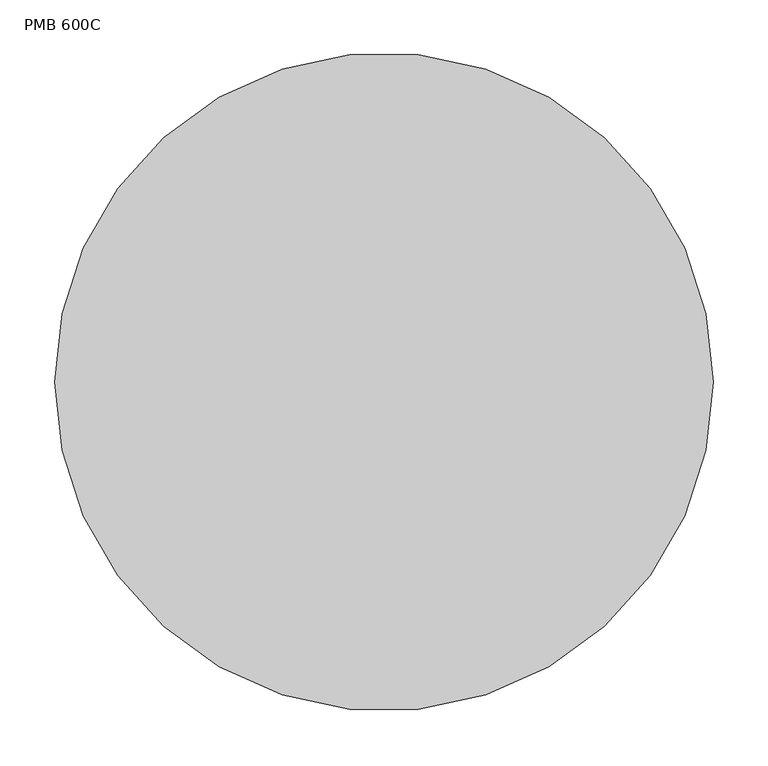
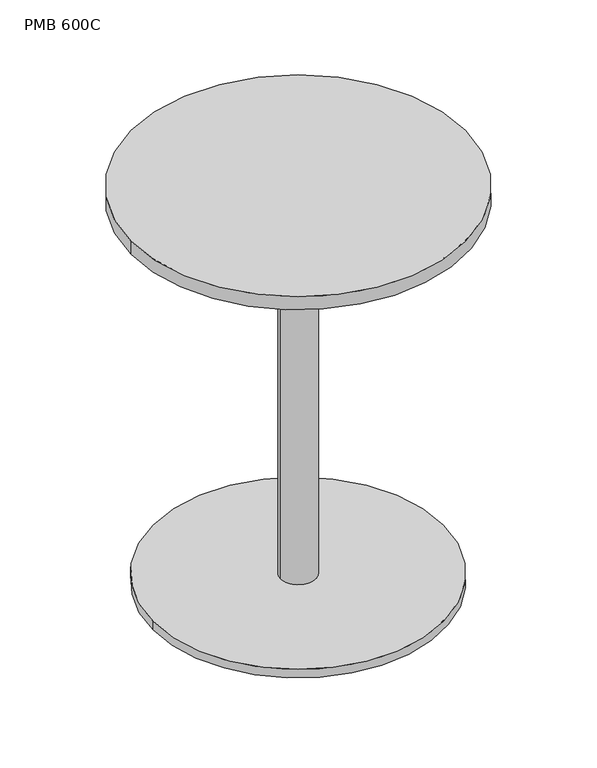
"""IFC4 building model written with IfcOpenShell, lengths in millimetres: furniture geometry, Mobiliário_MobiliáriodeEscritório_LinhaPERFECTA_Mesa Lateral - PMA600C, PMM600C e PMB600C_Marelli : PMB 600C."""

from ifc_helpers import new_model, si_unit, point, frame, origin, origin_with_axes, origin_2d, place, context, project, spatial, polyline, circle_curve, trimmed, segment, composite_curve, outline, extrude, source, transform, mapped, element, save
from ifc_brep_helpers import plane_surface, cylinder_surface, revolved_surface, advanced_brep


def pmb_600c_1b090ce4(model_context):
    return source(origin(), model_context, "Body", "SolidModel", [
        extrude(outline(composite_curve([segment(trimmed(circle_curve(origin_2d(), 260.5), [point((-260.5, 0.0))], [point((260.5, 0.0))], False, "CARTESIAN"), True, "CONTINUOUS"), segment(trimmed(circle_curve(origin_2d(), 260.5), [point((260.5, 0.0))], [point((-260.5, 0.0))], False, "CARTESIAN"), True, "CONTINUOUS")], self_intersect=False)), origin_with_axes(), (0.0, 0.0, 1.0), 16.0),
        extrude(outline(composite_curve([segment(trimmed(circle_curve(origin_2d(), 31.75), [point((-31.75, 0.0))], [point((31.75, 0.0))], False, "CARTESIAN"), True, "CONTINUOUS"), segment(trimmed(circle_curve(origin_2d(), 31.75), [point((31.75, 0.0))], [point((-31.75, 0.0))], False, "CARTESIAN"), True, "CONTINUOUS")], self_intersect=False)), frame((0.0, 0.0, 16.0), z_axis=(0.0, 0.0, 1.0), x_axis=(1.0, 0.0, 0.0)), (0.0, 0.0, 1.0), 704.0000003),
        extrude(outline(composite_curve([segment(trimmed(circle_curve(origin_2d(), 300.0), [point((-300.0, 0.0))], [point((300.0, 0.0))], False, "CARTESIAN"), True, "CONTINUOUS"), segment(trimmed(circle_curve(origin_2d(), 300.0), [point((300.0, 0.0))], [point((-300.0, 0.0))], False, "CARTESIAN"), True, "CONTINUOUS")], self_intersect=False)), frame((0.0, 0.0, 725.0), z_axis=(0.0, 0.0, 1.0), x_axis=(1.0, 0.0, 0.0)), (0.0, 0.0, 1.0), 25.0),
        advanced_brep(
        [(20.1969986, -140.0586969, 725.0), (138.8599, -21.3957955, 725.0), (194.9999917, -21.3957955, 725.0), (199.9999953, -16.3957919, 725.0), (194.6748504, -16.4400335, 725.0), (138.5366665, -16.4400335, 725.0), (15.2412353, -139.7354648, 725.0), (15.2412353, -197.102942, 725.0), (-16.4472375, -197.102942, 725.0), (-16.4472375, -138.9191945, 725.0), (-138.9263985, -16.4400335, 725.0), (-195.8811036, -16.4400335, 725.0), (-201.2060024, -16.4400335, 725.0), (-196.2059988, -21.3957955, 725.0), (-139.2060032, -21.3957955, 725.0), (-21.4030057, -139.198793, 725.0), (-21.4030057, -197.0586925, 725.0), (-16.4030021, -202.0586961, 725.0), (15.196995, -202.0586961, 725.0), (20.1969986, -197.0586925, 725.0), (199.9999953, 15.2038963, 725.0), (194.9999917, 20.2039, 725.0), (138.0000007, 20.2039, 725.0), (20.1969986, 138.006902, 725.0), (20.1969986, 195.8667969, 725.0), (15.196995, 200.8668006, 725.0), (-16.4030021, 200.8668006, 725.0), (-21.4030057, 195.8667969, 725.0), (-21.4030057, 138.0068975, 725.0), (-139.2060032, 20.2039, 725.0), (-196.2059988, 20.2039, 725.0), (-201.2060024, 15.2038963, 725.0), (-194.4316843, 15.2481486, 725.0), (-138.8645836, 15.2481486, 725.0), (-16.4472375, 137.6654947, 725.0), (-16.4472375, 195.9112309, 725.0), (15.2412353, 195.9112309, 725.0), (15.2412353, 138.6054991, 725.0), (138.5985857, 15.2481486, 725.0), (194.6750321, 15.2481486, 725.0), (20.1969986, -140.0586969, 710.0000003), (20.1969986, -197.0586925, 710.0000003), (15.196995, -202.0586961, 710.0000003), (-16.4030021, -202.0586961, 710.0000003), (-21.4030057, -197.0586925, 710.0000003), (-21.4030057, -139.198793, 710.0000003), (-139.2060032, -21.3957955, 710.0000003), (-196.2059988, -21.3957955, 710.0000003), (-201.2060024, -16.3957919, 710.0000003), (-201.2060024, 15.2038963, 710.0000003), (-196.2059988, 20.2039, 710.0000003), (-139.2060032, 20.2039, 710.0000003), (-21.4030057, 138.0068975, 710.0000003), (-21.4030057, 195.8667969, 710.0000003), (-16.4030021, 200.8668006, 710.0000003), (15.196995, 200.8668006, 710.0000003), (20.1969986, 195.8667969, 710.0000003), (20.1969986, 138.006902, 710.0000003), (138.0000007, 20.2039, 710.0000003), (194.9999917, 20.2039, 710.0000003), (199.9999953, 15.2038963, 710.0000003), (199.9999953, -16.3957919, 710.0000003), (194.9999917, -21.3957955, 710.0000003), (138.8599, -21.3957955, 710.0000003), (199.9999953, -16.3957919, 720.0000003), (199.9999953, 15.2038963, 720.0000003), (-201.2060024, 15.2038963, 720.0000003), (-201.2060024, -16.3957919, 720.0000003), (-16.4472375, -138.9191945, 720.0000003), (-16.4472375, -197.102942, 720.0000003), (15.2412353, -197.102942, 720.0000003), (15.2412353, -139.7354648, 720.0000003), (138.5366665, -16.4400335, 720.0000003), (194.6748504, -16.4400335, 720.0000003), (194.6750321, 15.2481486, 720.0000003), (138.5985857, 15.2481486, 720.0000003), (15.2412353, 138.6054991, 720.0000003), (15.2412353, 195.9112309, 720.0000003), (-16.4472375, 195.9112309, 720.0000003), (-16.4472375, 137.6654947, 720.0000003), (-138.8645836, 15.2481486, 720.0000003), (-194.4316843, 15.2481486, 720.0000003), (-195.8811036, -16.4400335, 720.0000003), (-138.9263985, -16.4400335, 720.0000003)],
        [
            (0, 1, circle_curve(frame((138.8599, -140.0586969, 725.0), z_axis=(0.0, 0.0, -1.0), x_axis=(1.0, 0.0, 0.0)), 118.6629014)),
            (1, 2),
            (2, 3, circle_curve(frame((194.9999917, -16.3957919, 725.0), z_axis=(0.0, 0.0, 1.0), x_axis=(-1.0, 0.0, 0.0)), 5.0000037)),
            (3, 4),
            (4, 5),
            (5, 6, circle_curve(frame((138.5366665, -139.7354648, 725.0), z_axis=(0.0, 0.0, 1.0), x_axis=(1.0, 0.0, 0.0)), 123.2954313)),
            (6, 7),
            (7, 8),
            (8, 9),
            (9, 10, circle_curve(frame((-138.9263985, -138.9191945, 725.0), z_axis=(0.0, 0.0, 1.0), x_axis=(1.0, 0.0, 0.0)), 122.479161)),
            (10, 11),
            (11, 12),
            (12, 13, circle_curve(frame((-196.2059988, -16.3957919, 725.0), z_axis=(0.0, 0.0, 1.0), x_axis=(1.0, 0.0, 0.0)), 5.0000037)),
            (13, 14),
            (14, 15, circle_curve(frame((-139.2060032, -139.198793, 725.0), z_axis=(0.0, 0.0, -1.0), x_axis=(1.0, 0.0, 0.0)), 117.8029975)),
            (15, 16),
            (16, 17, circle_curve(frame((-16.4030021, -197.0586925, 725.0), z_axis=(0.0, 0.0, 1.0), x_axis=(1.0, 0.0, 0.0)), 5.0000037)),
            (17, 18),
            (18, 19, circle_curve(frame((15.196995, -197.0586925, 725.0), z_axis=(0.0, 0.0, 1.0), x_axis=(1.0, 0.0, 0.0)), 5.0000037)),
            (19, 0),
            (20, 21, circle_curve(frame((194.9999917, 15.2038963, 725.0), z_axis=(0.0, 0.0, 1.0), x_axis=(-1.0, 0.0, 0.0)), 5.0000037)),
            (21, 22),
            (22, 23, circle_curve(frame((138.0000007, 138.006902, 725.0), z_axis=(0.0, 0.0, -1.0), x_axis=(1.0, 0.0, 0.0)), 117.803002)),
            (23, 24),
            (24, 25, circle_curve(frame((15.196995, 195.8667969, 725.0), z_axis=(0.0, 0.0, 1.0), x_axis=(1.0, 0.0, 0.0)), 5.0000037)),
            (25, 26),
            (26, 27, circle_curve(frame((-16.4030021, 195.8667969, 725.0), z_axis=(0.0, 0.0, 1.0), x_axis=(1.0, 0.0, 0.0)), 5.0000037)),
            (27, 28),
            (28, 29, circle_curve(frame((-139.2060032, 138.0068975, 725.0), z_axis=(0.0, 0.0, -1.0), x_axis=(1.0, 0.0, 0.0)), 117.8029975)),
            (29, 30),
            (30, 31, circle_curve(frame((-196.2059988, 15.2038963, 725.0), z_axis=(0.0, 0.0, 1.0), x_axis=(1.0, 0.0, 0.0)), 5.0000037)),
            (31, 32),
            (32, 33),
            (33, 34, circle_curve(frame((-138.8645836, 137.6654947, 725.0), z_axis=(0.0, 0.0, 1.0), x_axis=(1.0, 0.0, 0.0)), 122.4173461)),
            (34, 35),
            (35, 36),
            (36, 37),
            (37, 38, circle_curve(frame((138.5985857, 138.6054991, 725.0), z_axis=(0.0, 0.0, 1.0), x_axis=(1.0, 0.0, 0.0)), 123.3573505)),
            (38, 39),
            (39, 20),
            (40, 41),
            (41, 42, circle_curve(frame((15.196995, -197.0586925, 710.0000003), z_axis=(0.0, 0.0, -1.0), x_axis=(1.0, 0.0, 0.0)), 5.0000037)),
            (42, 43),
            (43, 44, circle_curve(frame((-16.4030021, -197.0586925, 710.0000003), z_axis=(0.0, 0.0, -1.0), x_axis=(1.0, 0.0, 0.0)), 5.0000037)),
            (44, 45),
            (45, 46, circle_curve(frame((-139.2060032, -139.198793, 710.0000003), z_axis=(0.0, 0.0, 1.0), x_axis=(1.0, 0.0, 0.0)), 117.8029975)),
            (46, 47),
            (47, 48, circle_curve(frame((-196.2059988, -16.3957919, 710.0000003), z_axis=(0.0, 0.0, -1.0), x_axis=(1.0, 0.0, 0.0)), 5.0000037)),
            (48, 49),
            (49, 50, circle_curve(frame((-196.2059988, 15.2038963, 710.0000003), z_axis=(0.0, 0.0, -1.0), x_axis=(1.0, 0.0, 0.0)), 5.0000037)),
            (50, 51),
            (51, 52, circle_curve(frame((-139.2060032, 138.0068975, 710.0000003), z_axis=(0.0, 0.0, 1.0), x_axis=(1.0, 0.0, 0.0)), 117.8029975)),
            (52, 53),
            (53, 54, circle_curve(frame((-16.4030021, 195.8667969, 710.0000003), z_axis=(0.0, 0.0, -1.0), x_axis=(1.0, 0.0, 0.0)), 5.0000037)),
            (54, 55),
            (55, 56, circle_curve(frame((15.196995, 195.8667969, 710.0000003), z_axis=(0.0, 0.0, -1.0), x_axis=(1.0, 0.0, 0.0)), 5.0000037)),
            (56, 57),
            (57, 58, circle_curve(frame((138.0000007, 138.006902, 710.0000003), z_axis=(0.0, 0.0, 1.0), x_axis=(1.0, 0.0, 0.0)), 117.803002)),
            (58, 59),
            (59, 60, circle_curve(frame((194.9999917, 15.2038963, 710.0000003), z_axis=(0.0, 0.0, -1.0), x_axis=(-1.0, 0.0, 0.0)), 5.0000037)),
            (60, 61),
            (61, 62, circle_curve(frame((194.9999917, -16.3957919, 710.0000003), z_axis=(0.0, 0.0, -1.0), x_axis=(-1.0, 0.0, 0.0)), 5.0000037)),
            (62, 63),
            (63, 40, circle_curve(frame((138.8599, -140.0586969, 710.0000003), z_axis=(0.0, 0.0, 1.0), x_axis=(1.0, 0.0, 0.0)), 118.6629014)),
            (0, 40),
            (63, 1),
            (62, 2),
            (61, 64),
            (64, 3),
            (60, 65),
            (65, 64),
            (20, 65),
            (59, 21),
            (58, 22),
            (57, 23),
            (56, 24),
            (55, 25),
            (54, 26),
            (53, 27),
            (52, 28),
            (51, 29),
            (50, 30),
            (49, 66),
            (66, 31),
            (48, 67),
            (67, 66),
            (12, 67),
            (47, 13),
            (46, 14),
            (45, 15),
            (44, 16),
            (43, 17),
            (42, 18),
            (41, 19),
            (68, 69),
            (69, 70),
            (70, 71),
            (71, 72, circle_curve(frame((138.5366665, -139.7354648, 720.0000003), z_axis=(0.0, 0.0, -1.0), x_axis=(1.0, 0.0, 0.0)), 123.2954313)),
            (72, 73),
            (73, 64),
            (65, 74),
            (74, 75),
            (75, 76, circle_curve(frame((138.5985857, 138.6054991, 720.0000003), z_axis=(0.0, 0.0, -1.0), x_axis=(1.0, 0.0, 0.0)), 123.3573505)),
            (76, 77),
            (77, 78),
            (78, 79),
            (79, 80, circle_curve(frame((-138.8645836, 137.6654947, 720.0000003), z_axis=(0.0, 0.0, -1.0), x_axis=(1.0, 0.0, 0.0)), 122.4173461)),
            (80, 81),
            (81, 66),
            (67, 82),
            (82, 83),
            (83, 68, circle_curve(frame((-138.9263985, -138.9191945, 720.0000003), z_axis=(0.0, 0.0, -1.0), x_axis=(1.0, 0.0, 0.0)), 122.479161)),
            (68, 9),
            (8, 69),
            (7, 70),
            (6, 71),
            (5, 72),
            (4, 73),
            (39, 74),
            (38, 75),
            (37, 76),
            (36, 77),
            (35, 78),
            (34, 79),
            (33, 80),
            (32, 81),
            (11, 82),
            (10, 83),
        ],
        [
            plane_surface(frame((257.5228014, -140.0586969, 725.0), z_axis=(0.0, 0.0, 1.0), x_axis=(0.0, -1.0, 0.0))),
            plane_surface(frame((257.5228014, -140.0586969, 710.0000003), z_axis=(0.0, 0.0, -1.0), x_axis=(0.0, 1.0, 0.0))),
            revolved_surface(polyline([(257.5228014, -140.0586969, 710.0000003), (257.5228014, -140.0586969, 725.0)]), (138.8599, -140.0586969, 710.0000003), (0.0, 0.0, -1.0)),
            plane_surface(frame((138.8599, -21.3957955, 725.0), z_axis=(0.0, -1.0, 0.0), x_axis=(0.0, 0.0, -1.0))),
            cylinder_surface(frame((194.9999917, -16.3957919, 710.0000003), z_axis=(0.0, 0.0, 1.0), x_axis=(-1.0, 0.0, 0.0)), 5.0000037),
            plane_surface(frame((199.9999953, -16.3957919, 725.0), z_axis=(1.0, 0.0, 0.0), x_axis=(0.0, 0.0, -1.0))),
            cylinder_surface(frame((194.9999917, 15.2038963, 710.0000003), z_axis=(0.0, 0.0, 1.0), x_axis=(-1.0, 0.0, 0.0)), 5.0000037),
            plane_surface(frame((194.9999917, 20.2039, 725.0), z_axis=(0.0, 1.0, 0.0), x_axis=(0.0, 0.0, -1.0))),
            revolved_surface(polyline([(255.80300269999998, 138.006902, 710.0000003), (255.80300269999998, 138.006902, 725.0)]), (138.0000007, 138.006902, 710.0000003), (0.0, 0.0, -1.0)),
            plane_surface(frame((20.1969986, 138.006902, 725.0), z_axis=(1.0, 0.0, 0.0), x_axis=(0.0, 0.0, -1.0))),
            cylinder_surface(frame((15.196995, 195.8667969, 710.0000003), z_axis=(0.0, 0.0, 1.0), x_axis=(1.0, 0.0, 0.0)), 5.0000037),
            plane_surface(frame((15.196995, 200.8668006, 725.0), z_axis=(0.0, 1.0, 0.0), x_axis=(0.0, 0.0, -1.0))),
            cylinder_surface(frame((-16.4030021, 195.8667969, 710.0000003), z_axis=(0.0, 0.0, 1.0), x_axis=(1.0, 0.0, 0.0)), 5.0000037),
            plane_surface(frame((-21.4030057, 195.8667969, 725.0), z_axis=(-1.0, 0.0, 0.0), x_axis=(0.0, 0.0, -1.0))),
            revolved_surface(polyline([(-21.403005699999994, 138.0068975, 710.0000003), (-21.403005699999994, 138.0068975, 725.0)]), (-139.2060032, 138.0068975, 710.0000003), (0.0, 0.0, -1.0)),
            plane_surface(frame((-139.2060032, 20.2039, 725.0), z_axis=(0.0, 1.0, 0.0), x_axis=(0.0, 0.0, -1.0))),
            cylinder_surface(frame((-196.2059988, 15.2038963, 710.0000003), z_axis=(0.0, 0.0, 1.0), x_axis=(1.0, 0.0, 0.0)), 5.0000037),
            plane_surface(frame((-201.2060024, 15.2038963, 725.0), z_axis=(-1.0, 0.0, 0.0), x_axis=(0.0, 0.0, -1.0))),
            cylinder_surface(frame((-196.2059988, -16.3957919, 710.0000003), z_axis=(0.0, 0.0, 1.0), x_axis=(1.0, 0.0, 0.0)), 5.0000037),
            plane_surface(frame((-196.2059988, -21.3957955, 725.0), z_axis=(0.0, -1.0, 0.0), x_axis=(0.0, 0.0, -1.0))),
            revolved_surface(polyline([(-21.403005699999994, -139.198793, 710.0000003), (-21.403005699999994, -139.198793, 725.0)]), (-139.2060032, -139.198793, 710.0000003), (0.0, 0.0, -1.0)),
            plane_surface(frame((-21.4030057, -139.198793, 725.0), z_axis=(-1.0, 0.0, 0.0), x_axis=(0.0, 0.0, -1.0))),
            cylinder_surface(frame((-16.4030021, -197.0586925, 710.0000003), z_axis=(0.0, 0.0, 1.0), x_axis=(1.0, 0.0, 0.0)), 5.0000037),
            plane_surface(frame((-16.4030021, -202.0586961, 725.0), z_axis=(0.0, -1.0, 0.0), x_axis=(0.0, 0.0, -1.0))),
            cylinder_surface(frame((15.196995, -197.0586925, 710.0000003), z_axis=(0.0, 0.0, 1.0), x_axis=(1.0, 0.0, 0.0)), 5.0000037),
            plane_surface(frame((20.1969986, -197.0586925, 725.0), z_axis=(1.0, 0.0, 0.0), x_axis=(0.0, 0.0, -1.0))),
            plane_surface(frame((-16.4472375, -196.7326941, 720.0000003), z_axis=(0.0, 0.0, 1.0), x_axis=(0.0, 1.0, 0.0))),
            plane_surface(frame((-16.4472375, -138.9191945, 937.3795598), z_axis=(1.0, 0.0, 0.0), x_axis=(0.0, 0.0, -1.0))),
            plane_surface(frame((-16.4472375, -197.102942, 937.3795598), z_axis=(0.0, 1.0, 0.0), x_axis=(0.0, 0.0, -1.0))),
            plane_surface(frame((15.2412353, -197.102942, 937.3795598), z_axis=(-1.0, 0.0, 0.0), x_axis=(0.0, 0.0, -1.0))),
            cylinder_surface(frame((138.5366665, -139.7354648, 720.0000003), z_axis=(0.0, 0.0, -1.0), x_axis=(1.0, 0.0, 0.0)), 123.2954313),
            plane_surface(frame((138.5366665, -16.4400335, 937.3795598), z_axis=(0.0, 1.0, 0.0), x_axis=(0.0, 0.0, -1.0))),
            plane_surface(frame((194.6748504, -16.4400335, 937.3795598), z_axis=(0.0, 1.0, 0.0), x_axis=(0.0, 0.0, -1.0))),
            plane_surface(frame((209.9999953, 15.2481486, 937.3795598), z_axis=(0.0, -1.0, 0.0), x_axis=(0.0, 0.0, -1.0))),
            plane_surface(frame((194.6750321, 15.2481486, 937.3795598), z_axis=(0.0, -1.0, 0.0), x_axis=(0.0, 0.0, -1.0))),
            cylinder_surface(frame((138.5985857, 138.6054991, 720.0000003), z_axis=(0.0, 0.0, -1.0), x_axis=(1.0, 0.0, 0.0)), 123.3573505),
            plane_surface(frame((15.2412353, 138.6054991, 937.3795598), z_axis=(-1.0, 0.0, 0.0), x_axis=(0.0, 0.0, -1.0))),
            plane_surface(frame((15.2412353, 195.9112309, 937.3795598), z_axis=(0.0, -1.0, 0.0), x_axis=(0.0, 0.0, -1.0))),
            plane_surface(frame((-16.4472375, 195.9112309, 937.3795598), z_axis=(1.0, 0.0, 0.0), x_axis=(0.0, 0.0, -1.0))),
            cylinder_surface(frame((-138.8645836, 137.6654947, 720.0000003), z_axis=(0.0, 0.0, -1.0), x_axis=(1.0, 0.0, 0.0)), 122.4173461),
            plane_surface(frame((-138.8645836, 15.2481486, 937.3795598), z_axis=(0.0, -1.0, 0.0), x_axis=(0.0, 0.0, -1.0))),
            plane_surface(frame((-194.4316843, 15.2481486, 937.3795598), z_axis=(0.0, -1.0, 0.0), x_axis=(0.0, 0.0, -1.0))),
            plane_surface(frame((-211.2, -16.4400335, 937.3795598), z_axis=(0.0, 1.0, 0.0), x_axis=(0.0, 0.0, -1.0))),
            plane_surface(frame((-195.8811036, -16.4400335, 937.3795598), z_axis=(0.0, 1.0, 0.0), x_axis=(0.0, 0.0, -1.0))),
            cylinder_surface(frame((-138.9263985, -138.9191945, 720.0000003), z_axis=(0.0, 0.0, -1.0), x_axis=(1.0, 0.0, 0.0)), 122.479161),
        ],
        [
            (0, [[1, 2, 3, 4, 5, 6, 7, 8, 9, 10, 11, 12, 13, 14, 15, 16, 17, 18, 19, 20]]),
            (0, [[21, 22, 23, 24, 25, 26, 27, 28, 29, 30, 31, 32, 33, 34, 35, 36, 37, 38, 39, 40]]),
            (1, [[41, 42, 43, 44, 45, 46, 47, 48, 49, 50, 51, 52, 53, 54, 55, 56, 57, 58, 59, 60, 61, 62, 63, 64]]),
            (2, [[-1, 65, -64, 66]]),
            (3, [[-2, -66, -63, 67]]),
            (4, [[-3, -67, -62, 68, 69]]),
            (5, [[-61, 70, 71, -68]]),
            (6, [[-21, 72, -70, -60, 73]]),
            (7, [[-22, -73, -59, 74]]),
            (8, [[-23, -74, -58, 75]]),
            (9, [[-24, -75, -57, 76]]),
            (10, [[-25, -76, -56, 77]]),
            (11, [[-26, -77, -55, 78]]),
            (12, [[-27, -78, -54, 79]]),
            (13, [[-28, -79, -53, 80]]),
            (14, [[-29, -80, -52, 81]]),
            (15, [[-30, -81, -51, 82]]),
            (16, [[-31, -82, -50, 83, 84]]),
            (17, [[-49, 85, 86, -83]]),
            (18, [[-13, 87, -85, -48, 88]]),
            (19, [[-14, -88, -47, 89]]),
            (20, [[-15, -89, -46, 90]]),
            (21, [[-16, -90, -45, 91]]),
            (22, [[-17, -91, -44, 92]]),
            (23, [[-18, -92, -43, 93]]),
            (24, [[-19, -93, -42, 94]]),
            (25, [[-20, -94, -41, -65]]),
            (26, [[95, 96, 97, 98, 99, 100, -71, 101, 102, 103, 104, 105, 106, 107, 108, 109, -86, 110, 111, 112]]),
            (27, [[-95, 113, -9, 114]]),
            (28, [[-96, -114, -8, 115]]),
            (29, [[-97, -115, -7, 116]]),
            (30, [[-98, -116, -6, 117]]),
            (31, [[-99, -117, -5, 118]]),
            (32, [[-100, -118, -4, -69]]),
            (33, [[-101, -72, -40, 119]]),
            (34, [[-102, -119, -39, 120]]),
            (35, [[-103, -120, -38, 121]]),
            (36, [[-104, -121, -37, 122]]),
            (37, [[-105, -122, -36, 123]]),
            (38, [[-106, -123, -35, 124]]),
            (39, [[-107, -124, -34, 125]]),
            (40, [[-108, -125, -33, 126]]),
            (41, [[-109, -126, -32, -84]]),
            (42, [[-110, -87, -12, 127]]),
            (43, [[-111, -127, -11, 128]]),
            (44, [[-112, -128, -10, -113]]),
        ],
    ),
    ])


if __name__ == "__main__":
    model = new_model("IFC4")
    model_context = context("Model", 3, world=origin())
    ifc_project = project(units=[si_unit("LENGTHUNIT", "METRE", prefix="MILLI")], contexts=[model_context])
    site = spatial("IfcSite", under=ifc_project)
    building = spatial("IfcBuilding", under=site)
    placement = place(None, origin())
    pmb_600c_shape = pmb_600c_1b090ce4(model_context)
    element("IfcFurniture", 1, ObjectType="Mobiliário_MobiliáriodeEscritório_LinhaPERFECTA_Mesa Lateral - PMA600C, PMM600C e PMB600C_Marelli : PMB 600C", at=placement, inside=building, context=model_context, shape_type="MappedRepresentation", body=[
        mapped(pmb_600c_shape, transform((0.0, 0.0, 0.0), x_axis=(1.0, 0.0, 0.0), y_axis=(0.0, 1.0, 0.0), z_axis=(0.0, 0.0, 1.0))),
    ])
    save(model, "model.ifc")
